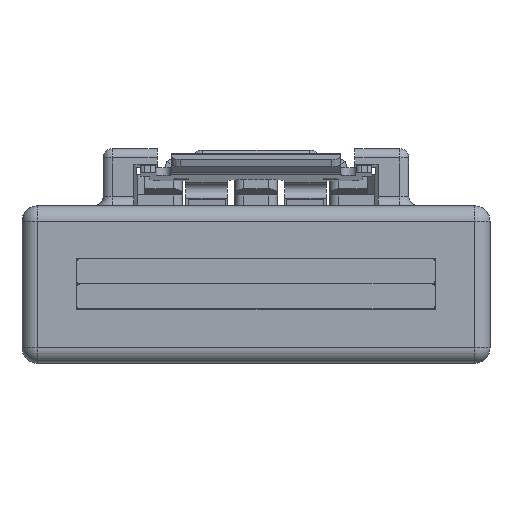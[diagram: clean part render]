
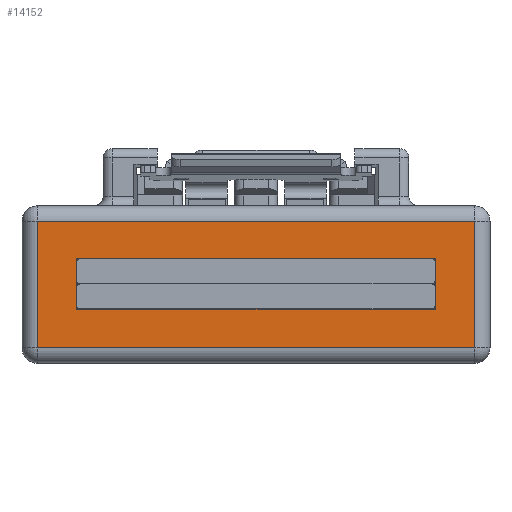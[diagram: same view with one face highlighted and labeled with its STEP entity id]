
A CAD part, front view. The second image highlights one B-rep face of the part: STEP entity #14152.
In plain terms, the highlighted planar face has unit normal (0, -1, 0) as drawn and (-1, 0, 0) by its records, which use the part's own axes.
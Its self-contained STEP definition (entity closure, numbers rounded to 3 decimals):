
#8588=DIRECTION('',(0.,-1.,0.));
#8589=VECTOR('',#8588,4.1);
#8590=CARTESIAN_POINT('',(0.2,4.83,-7.075));
#8591=LINE('',#8590,#8589);
#8607=DIRECTION('',(0.,0.,-1.));
#8608=VECTOR('',#8607,14.15);
#8609=CARTESIAN_POINT('',(0.2,4.83,7.075));
#8610=LINE('',#8609,#8608);
#8615=DIRECTION('',(0.,1.,0.));
#8616=VECTOR('',#8615,1.636);
#8617=CARTESIAN_POINT('',(0.2,1.982,5.81));
#8618=LINE('',#8617,#8616);
#8619=DIRECTION('',(0.,0.,-1.));
#8620=VECTOR('',#8619,11.62);
#8621=CARTESIAN_POINT('',(0.2,3.618,5.81));
#8622=LINE('',#8621,#8620);
#8623=DIRECTION('',(0.,0.,1.));
#8624=VECTOR('',#8623,14.15);
#8625=CARTESIAN_POINT('',(0.2,0.73,-7.075));
#8626=LINE('',#8625,#8624);
#8646=DIRECTION('',(0.,1.,0.));
#8647=VECTOR('',#8646,4.1);
#8648=CARTESIAN_POINT('',(0.2,0.73,7.075));
#8649=LINE('',#8648,#8647);
#8692=DIRECTION('',(0.,0.,-1.));
#8693=VECTOR('',#8692,11.62);
#8694=CARTESIAN_POINT('',(0.2,1.982,5.81));
#8695=LINE('',#8694,#8693);
#8751=DIRECTION('',(0.,1.,0.));
#8752=VECTOR('',#8751,1.636);
#8753=CARTESIAN_POINT('',(0.2,1.982,-5.81));
#8754=LINE('',#8753,#8752);
#12807=CARTESIAN_POINT('',(0.2,3.618,-5.81));
#12808=VERTEX_POINT('',#12807);
#12809=CARTESIAN_POINT('',(0.2,3.618,5.81));
#12810=VERTEX_POINT('',#12809);
#12815=CARTESIAN_POINT('',(0.2,1.982,-5.81));
#12816=VERTEX_POINT('',#12815);
#12821=CARTESIAN_POINT('',(0.2,1.982,5.81));
#12822=VERTEX_POINT('',#12821);
#12843=CARTESIAN_POINT('',(0.2,0.73,-7.075));
#12844=CARTESIAN_POINT('',(0.2,0.73,7.075));
#12845=VERTEX_POINT('',#12843);
#12846=VERTEX_POINT('',#12844);
#12847=CARTESIAN_POINT('',(0.2,4.83,-7.075));
#12848=VERTEX_POINT('',#12847);
#12849=CARTESIAN_POINT('',(0.2,4.83,7.075));
#12850=VERTEX_POINT('',#12849);
#14129=CARTESIAN_POINT('',(0.2,0.23,13.));
#14130=DIRECTION('',(1.,0.,0.));
#14131=DIRECTION('',(0.,1.,0.));
#14132=AXIS2_PLACEMENT_3D('',#14129,#14130,#14131);
#14133=PLANE('',#14132);
#14135=ORIENTED_EDGE('',*,*,#14134,.F.);
#14136=ORIENTED_EDGE('',*,*,#14096,.F.);
#14137=ORIENTED_EDGE('',*,*,#14120,.F.);
#14139=ORIENTED_EDGE('',*,*,#14138,.F.);
#14140=EDGE_LOOP('',(#14135,#14136,#14137,#14139));
#14141=FACE_OUTER_BOUND('',#14140,.F.);
#14143=ORIENTED_EDGE('',*,*,#14142,.F.);
#14145=ORIENTED_EDGE('',*,*,#14144,.T.);
#14147=ORIENTED_EDGE('',*,*,#14146,.T.);
#14149=ORIENTED_EDGE('',*,*,#14148,.F.);
#14150=EDGE_LOOP('',(#14143,#14145,#14147,#14149));
#14151=FACE_BOUND('',#14150,.F.);
#14152=ADVANCED_FACE('',(#14141,#14151),#14133,.F.);
#14096=EDGE_CURVE('',#12848,#12845,#8591,.T.);
#14120=EDGE_CURVE('',#12850,#12848,#8610,.T.);
#14134=EDGE_CURVE('',#12845,#12846,#8626,.T.);
#14138=EDGE_CURVE('',#12846,#12850,#8649,.T.);
#14142=EDGE_CURVE('',#12822,#12816,#8695,.T.);
#14144=EDGE_CURVE('',#12822,#12810,#8618,.T.);
#14146=EDGE_CURVE('',#12810,#12808,#8622,.T.);
#14148=EDGE_CURVE('',#12816,#12808,#8754,.T.);
